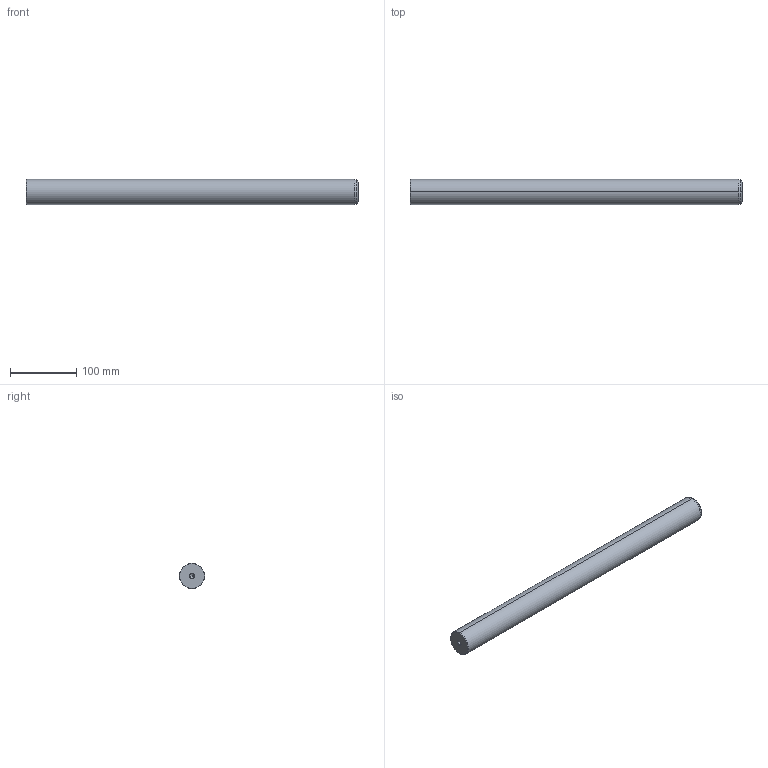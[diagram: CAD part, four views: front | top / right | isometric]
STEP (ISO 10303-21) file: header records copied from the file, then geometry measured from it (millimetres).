
FILE_DESCRIPTION(('CATIA V5 STEP Exchange'),'2;1');
FILE_NAME('C:\Users\Utente\Desktop\IO LAVORO\3D X SITO CF\X SITO\720\720-38x500.stp','2021-01-01T11:58:17+00:00',('none'),('none'),'CATIA Version 5 Release 20 GA (IN-10)','CATIA V5 STEP AP203','none');
FILE_SCHEMA(('CONFIG_CONTROL_DESIGN'));
Length unit declared in the file: millimetre
Products named in the file (1): 720-38x500
Bounding box: 500 x 38 x 38 mm (x, y, z)
Volume: 564717.9 mm3; surface area: 62645 mm2
Topology: 1 solids, 1 shells, 22 faces, 62 edges, 40 vertices
Faces by surface type: cone 12, cylinder 6, plane 2, torus 2
Entity records: 806 total; most frequent: CARTESIAN_POINT 229, ORIENTED_EDGE 116, DIRECTION 93, EDGE_CURVE 58, AXIS2_PLACEMENT_3D 54, VERTEX_POINT 40, CIRCLE 31, EDGE_LOOP 24
